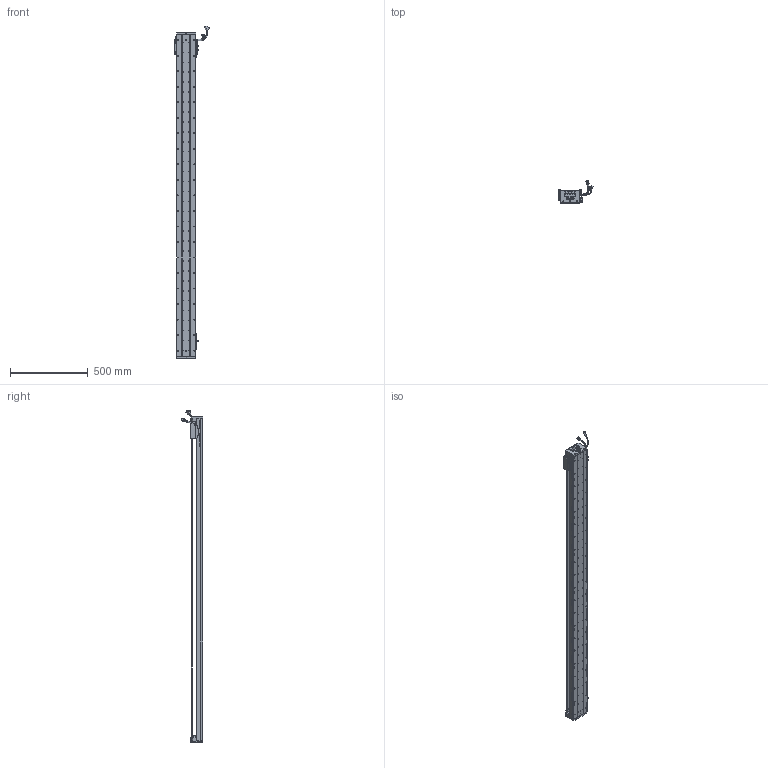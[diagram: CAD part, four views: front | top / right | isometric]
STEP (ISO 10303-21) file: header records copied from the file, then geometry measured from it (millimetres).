
FILE_DESCRIPTION (( 'STEP AP203' ), '1' );
FILE_NAME ('Z1-RY120D-1-L500-B-K.SLDASM_1900.step', '2021-05-17T03:49:31', ( '盈信电脑' ), ( '东莞市道滘镇水果街19号' ), 'SwSTEP 2.0', 'SolidWorks 2016', '' );
FILE_SCHEMA (( 'CONFIG_CONTROL_DESIGN' ));
Length unit declared in the file: millimetre
Products named in the file (37): 120-Z-臏賑輸盄裔(21遴); HARNESS-Part-1; SCALE-Part-2; Z-RY120D詩湍奻揤裔; PSLH080_PSLF2; Z1-RY120铝滑块（21款）; COVER; COVER-Part-1; SEAL; 140蚥薯蝶輸; SCREW-M1.6; Z1-RY120-500-倰第菁釱_1900; 080黍杅芛假蚾釱21遴; SCREW-M1.6-3; SCREW-M1.7-1; PBU_SHEET; Z1-RY120-L500詩湍100mm遵_1900; SCALE; Z1-RY120D-1-L500-B-K.SLDASM_1900; HOLDER0; SEAL-Part-1; 140雄赽晤鎢ん堤盄; LABEL-Part-1; SCREW-M1.6-2; HARNESS-Part-2; Z-RY120D詩湍狟揤裔; 榋妏寠巭燃_暯_M2_2; 672嫖萇羲壽假蚾釱; RY100FB-遵嫖萇覜茼え; LABEL; Z-120詩湍傷裔啣; SCALE-Part-1; SCREW-M1.6-1; HARNESS; 覜茼ん672; SHIELDPLATE; SCREW-M1.7
Assembly tree (43 placements, depth 4):
  Z1-RY120D-1-L500-B-K.SLDASM_1900
    Z1-RY120-500-倰第菁釱_1900
    覜茼ん672  x3
    672嫖萇羲壽假蚾釱  x2
    Z1-RY120铝滑块（21款）
    PSLH080_PSLF2
      SCALE
        SCALE-Part-1
        SCALE-Part-2
      HARNESS
        HARNESS-Part-1
        HARNESS-Part-2
      LABEL
        LABEL-Part-1
      COVER
        COVER-Part-1
      SEAL
        SEAL-Part-1
      榋妏寠巭燃_暯_M2_2
      SHIELDPLATE
      SCREW-M1.7
      SCREW-M1.7-1
      PBU_SHEET
      SCREW-M1.6
      SCREW-M1.6-1
      SCREW-M1.6-2
      SCREW-M1.6-3
      HOLDER0
    080黍杅芛假蚾釱21遴
    120-Z-臏賑輸盄裔(21遴)
    140雄赽晤鎢ん堤盄
    140蚥薯蝶輸  x2
    RY100FB-遵嫖萇覜茼え
    Z-120詩湍傷裔啣  x2
    Z-RY120D詩湍奻揤裔  x2
    Z-RY120D詩湍狟揤裔  x2
    Z1-RY120-L500詩湍100mm遵_1900
Bounding box: 222.88 x 140.94 x 2138.99 mm (x, y, z)
Volume: 4863615.8 mm3; surface area: 1739585 mm2
Topology: 38 solids, 38 shells, 3327 faces, 9368 edges, 5920 vertices
Faces by surface type: cylinder 1674, plane 1199, cone 332, torus 69, bspline 53
Entity records: 108861 total; most frequent: CARTESIAN_POINT 32632, ORIENTED_EDGE 15600, DIRECTION 14438, EDGE_CURVE 7800, AXIS2_PLACEMENT_3D 5302, VERTEX_POINT 5040, VECTOR 3834, LINE 3834
